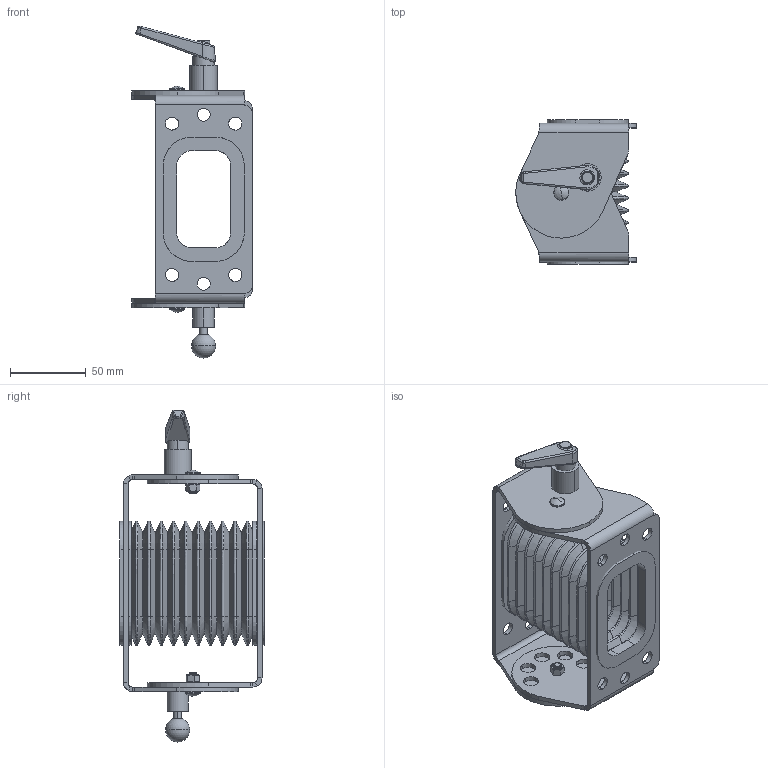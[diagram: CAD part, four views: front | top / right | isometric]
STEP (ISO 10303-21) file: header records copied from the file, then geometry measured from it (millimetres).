
FILE_DESCRIPTION (( 'STEP AP203' ), '1' );
FILE_NAME ('TP.045.3410.STEP', '2026-09-30T07:49:44', ( '' ), ( '' ), 'SwSTEP 2.0', 'SolidWorks 2015', '' );
FILE_SCHEMA (( 'CONFIG_CONTROL_DESIGN' ));
Length unit declared in the file: millimetre
Products named in the file (16): Part11^Assem10; disli parca_3; Copy (3) of 6206_300__W_0__3; M5 Fiberli Somun(HDSM05000001); Assem10_3; kovan_1; sýkma yataðý; 45-4 K; 45-4 V; M6_mushroom head_square neck_m5; TP.045.3410; Part13^Assem10; Part12^Assem10; yay; kaucuk koruk_duz ezilmiŸ; Part10^Assem10
Assembly tree (14 placements, depth 3):
  Part11^Assem10
  TP.045.3410
    45-4 V
    45-4 K
    sýkma yataðý
    Assem10_3
      kovan_1
      disli parca_3
      Part13^Assem10
      yay
    M6_mushroom head_square neck_m5  x2
    M5 Fiberli Somun(HDSM05000001)  x2
    kaucuk koruk_duz ezilmiŸ
    Copy (3) of 6206_300__W_0__3
  Part12^Assem10
  Part10^Assem10
Bounding box: 79.42 x 95.38 x 219.07 mm (x, y, z)
Volume: 144448.5 mm3; surface area: 163534.7 mm2
Topology: 13 solids, 14 shells, 1249 faces, 2794 edges, 1588 vertices
Faces by surface type: plane 339, torus 283, cylinder 230, bspline 203, cone 182, sphere 12
Entity records: 66637 total; most frequent: CARTESIAN_POINT 42457, ORIENTED_EDGE 5228, DIRECTION 3646, EDGE_CURVE 2614, AXIS2_PLACEMENT_3D 1514, VERTEX_POINT 1486, B_SPLINE_CURVE_WITH_KNOTS 1428, EDGE_LOOP 1262
